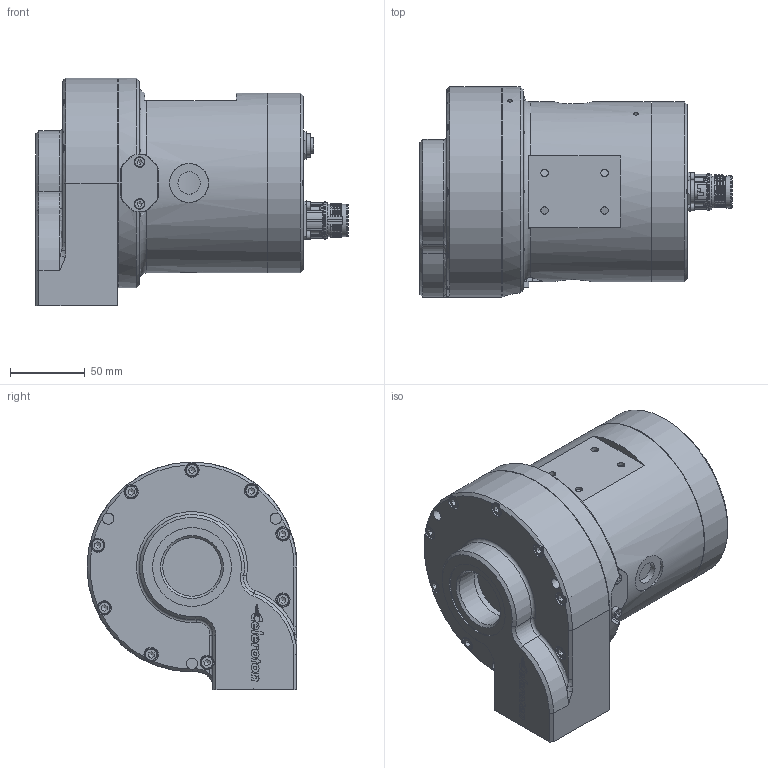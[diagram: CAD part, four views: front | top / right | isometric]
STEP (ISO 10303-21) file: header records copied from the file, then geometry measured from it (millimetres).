
FILE_DESCRIPTION(/* description */ (''),/* implementation_level */ '2;1');
FILE_NAME(/* name */ '',/* time_stamp */ '2026-07-22T09:19:54+02:00',/* author */ (''),/* organization */ (''),/* preprocessor_version */ 'ST-DEVELOPER v20',/* originating_system */ 'Autodesk Inventor 2024',/* authorisation */ '');
FILE_SCHEMA (('AUTOMOTIVE_DESIGN { 1 0 10303 214 3 1 1 }'));
Length unit declared in the file: millimetre
Products named in the file (1): 040282
Bounding box: 208.3 x 140 x 152 mm (x, y, z)
Volume: 2146001.3 mm3; surface area: 125180 mm2
Topology: 1 solids, 6 shells, 844 faces, 2252 edges, 1481 vertices
Faces by surface type: plane 388, cylinder 222, bspline 117, cone 62, torus 55
Full cylindrical faces by diameter (mm): 3 x4, 3.242 x2, 4.134 x9, 4.917 x4, 5.5 x4, 7 x8, 7.5 x3, 8 x4, 8.5 x9, 9.5 x9, 10.26 x1, 14 x1, 14.95 x2, 15.8 x1, 16 x1, 21.6 x1, 25 x1, 26 x2, 38.952 x2, 42.1 x2, 52.6 x2, 115 x1, 120 x2, 134.5 x1, 140 x1
Entity records: 51504 total; most frequent: CARTESIAN_POINT 30665, ORIENTED_EDGE 4458, DIRECTION 3769, EDGE_CURVE 2229, VERTEX_POINT 1481, AXIS2_PLACEMENT_3D 1351, LINE 1067, VECTOR 1067
